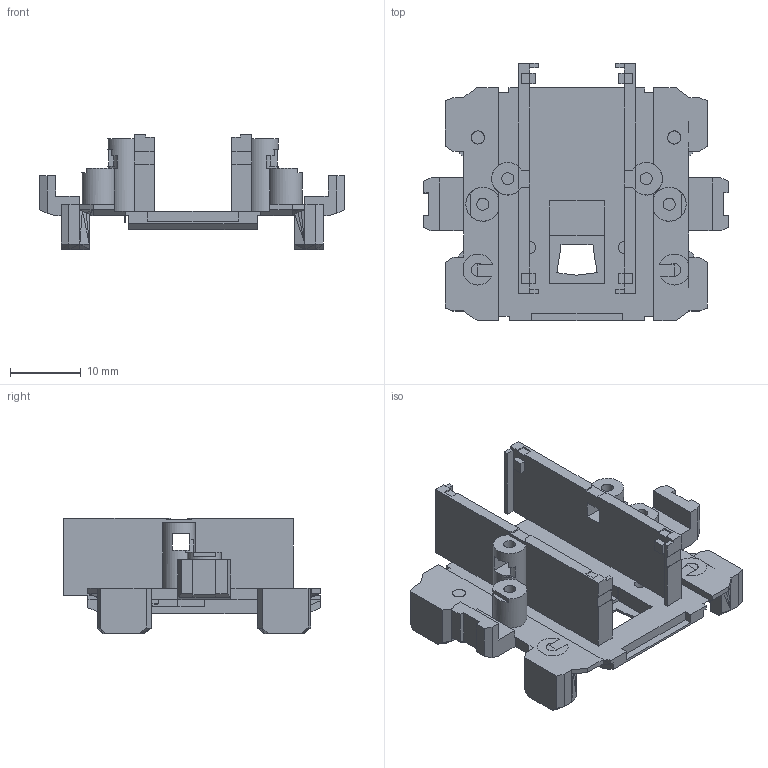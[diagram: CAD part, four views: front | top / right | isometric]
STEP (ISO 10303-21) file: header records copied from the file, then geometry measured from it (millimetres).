
FILE_DESCRIPTION(('Open CASCADE Model'),'2;1');
FILE_NAME('Open CASCADE Shape Model','2026-10-02T12:53:20',('Author'),( 'Open CASCADE'),'Open CASCADE STEP processor 7.9','Open CASCADE 7.9' ,'Unknown');
FILE_SCHEMA(('AUTOMOTIVE_DESIGN { 1 0 10303 214 1 1 1 1 }'));
Products named in the file (1): Open CASCADE STEP translator 7.9 1
Bounding box: 43.15 x 36.41 x 16.3 mm (x, y, z)
Volume: 4223.9 mm3; surface area: 5663.2 mm2
Topology: 1 solids, 1 shells, 1242 faces, 3012 edges, 1784 vertices
Faces by surface type: plane 1222, cylinder 20
Full cylindrical faces by diameter (mm): 1.7 x6
Entity records: 73781 total; most frequent: CARTESIAN_POINT 12240, DIRECTION 11457, LINE 8795, VECTOR 8795, ORIENTED_EDGE 6024, PCURVE 6024, DEFINITIONAL_REPRESENTATION 6024, EDGE_CURVE 3012
